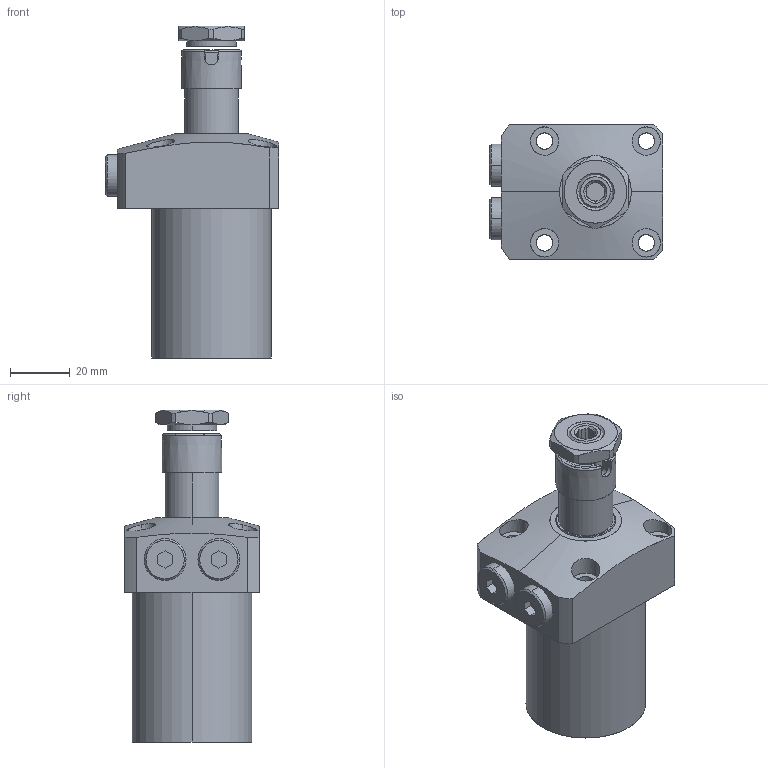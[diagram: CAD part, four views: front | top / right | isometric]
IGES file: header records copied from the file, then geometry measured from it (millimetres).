
Start section: SolidWorks IGES file using analytic representation for surfaces
Global section: file name: C:\Documents and Settings\nijil\My Documents\Clasys1\LV Series\40\0301-0091.IGS; native system: SolidWorks 2010; preprocessor: SolidWorks 2010; author: nijil; date: 130723.144014; units: millimetre
Bounding box: 58 x 45 x 111 mm (x, y, z)
Surface area: 21564.7 mm2 (no closed solid volume)
Topology: 0 solids, 0 shells, 165 faces, 3180 edges, 3176 vertices
Faces by surface type: revolution 93, bspline 72
